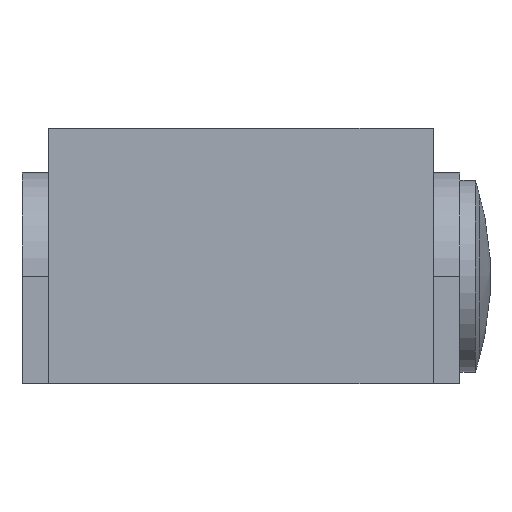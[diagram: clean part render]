
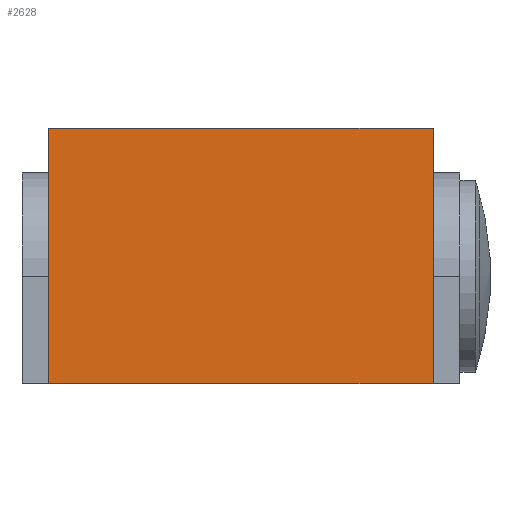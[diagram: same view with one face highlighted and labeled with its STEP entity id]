
A CAD part, front view. The second image highlights one B-rep face of the part: STEP entity #2628.
In plain terms, the highlighted planar face has unit normal (0, -1, 0) as drawn and (0, 0, -1) by its records, which use the part's own axes.
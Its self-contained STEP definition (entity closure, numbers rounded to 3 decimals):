
#1169=CARTESIAN_POINT('',(-25.0,16.8,0.0));
#1170=VERTEX_POINT('',#1169);
#1177=CARTESIAN_POINT('',(-25.0,-16.5,0.0));
#1178=VERTEX_POINT('',#1177);
#1179=CARTESIAN_POINT('',(-25.0,-16.5,0.0));
#1180=DIRECTION('',(0.0,1.0,0.0));
#1181=VECTOR('',#1180,33.3);
#1182=LINE('',#1179,#1181);
#1183=EDGE_CURVE('',#1178,#1170,#1182,.T.);
#1335=CARTESIAN_POINT('',(25.0,16.8,0.0));
#1336=VERTEX_POINT('',#1335);
#1343=CARTESIAN_POINT('',(-25.0,16.8,0.0));
#1344=DIRECTION('',(1.0,0.0,0.0));
#1345=VECTOR('',#1344,50.0);
#1346=LINE('',#1343,#1345);
#1347=EDGE_CURVE('',#1170,#1336,#1346,.T.);
#1593=CARTESIAN_POINT('',(25.0,-16.5,0.0));
#1594=VERTEX_POINT('',#1593);
#1601=CARTESIAN_POINT('',(25.0,16.8,0.0));
#1602=DIRECTION('',(0.0,-1.0,0.0));
#1603=VECTOR('',#1602,33.3);
#1604=LINE('',#1601,#1603);
#1605=EDGE_CURVE('',#1336,#1594,#1604,.T.);
#2605=CARTESIAN_POINT('',(25.0,-16.5,0.0));
#2606=DIRECTION('',(-1.0,0.0,0.0));
#2607=VECTOR('',#2606,50.0);
#2608=LINE('',#2605,#2607);
#2609=EDGE_CURVE('',#1594,#1178,#2608,.T.);
#2617=CARTESIAN_POINT('',(0.0,0.,0.0));
#2618=DIRECTION('',(0.0,0.0,1.0));
#2619=DIRECTION('',(1.0,0.0,0.0));
#2620=AXIS2_PLACEMENT_3D('',#2617,#2618,#2619);
#2621=PLANE('',#2620);
#2622=ORIENTED_EDGE('',*,*,#1347,.T.);
#2623=ORIENTED_EDGE('',*,*,#1605,.T.);
#2624=ORIENTED_EDGE('',*,*,#2609,.T.);
#2625=ORIENTED_EDGE('',*,*,#1183,.T.);
#2626=EDGE_LOOP('',(#2622,#2623,#2624,#2625));
#2627=FACE_OUTER_BOUND('',#2626,.T.);
#2628=ADVANCED_FACE('',(#2627),#2621,.F.);
